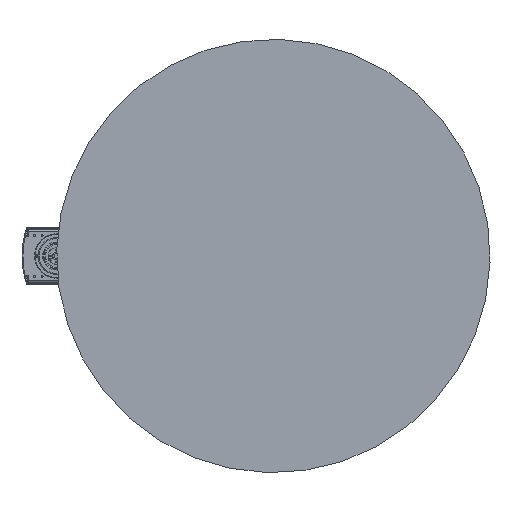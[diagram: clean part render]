
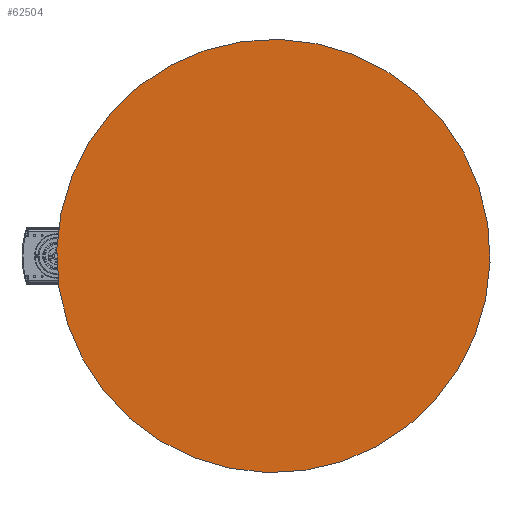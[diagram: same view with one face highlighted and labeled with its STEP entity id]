
A CAD part, front view. The second image highlights one B-rep face of the part: STEP entity #62504.
In plain terms, the highlighted planar face has unit normal (0, -1, 0).
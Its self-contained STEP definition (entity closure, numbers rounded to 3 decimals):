
#12862 = DIRECTION ( 'NONE',  ( 0., 0., 1. ) ) ;
#19084 = VERTEX_POINT ( 'NONE', #93762 ) ;
#31506 = AXIS2_PLACEMENT_3D ( 'NONE', #176301, #147169, #46708 ) ;
#37085 = AXIS2_PLACEMENT_3D ( 'NONE', #143360, #154644, #12862 ) ;
#39089 = EDGE_LOOP ( 'NONE', ( #154564, #47735 ) ) ;
#46708 = DIRECTION ( 'NONE',  ( 0., 0., 1. ) ) ;
#47735 = ORIENTED_EDGE ( 'NONE', *, *, #78697, .F. ) ;
#55034 = CIRCLE ( 'NONE', #37085, 450. ) ;
#55795 = AXIS2_PLACEMENT_3D ( 'NONE', #114943, #57698, #87718 ) ;
#57698 = DIRECTION ( 'NONE',  ( 0., 1., 0. ) ) ;
#62504 = ADVANCED_FACE ( 'NONE', ( #129952 ), #185411, .F. ) ;
#78697 = EDGE_CURVE ( 'NONE', #19084, #111207, #136481, .T. ) ;
#87718 = DIRECTION ( 'NONE',  ( 0., 0., 1. ) ) ;
#93762 = CARTESIAN_POINT ( 'NONE',  ( 0., 0., 450. ) ) ;
#111207 = VERTEX_POINT ( 'NONE', #128558 ) ;
#114943 = CARTESIAN_POINT ( 'NONE',  ( 0., 0., 0. ) ) ;
#128558 = CARTESIAN_POINT ( 'NONE',  ( 0., 0., -450. ) ) ;
#129952 = FACE_OUTER_BOUND ( 'NONE', #39089, .T. ) ;
#136481 = CIRCLE ( 'NONE', #31506, 450. ) ;
#136909 = EDGE_CURVE ( 'NONE', #111207, #19084, #55034, .T. ) ;
#143360 = CARTESIAN_POINT ( 'NONE',  ( 0., 0., 0. ) ) ;
#147169 = DIRECTION ( 'NONE',  ( 0., 1., 0. ) ) ;
#154564 = ORIENTED_EDGE ( 'NONE', *, *, #136909, .F. ) ;
#154644 = DIRECTION ( 'NONE',  ( 0., 1., 0. ) ) ;
#176301 = CARTESIAN_POINT ( 'NONE',  ( 0., 0., 0. ) ) ;
#185411 = PLANE ( 'NONE',  #55795 ) ;
